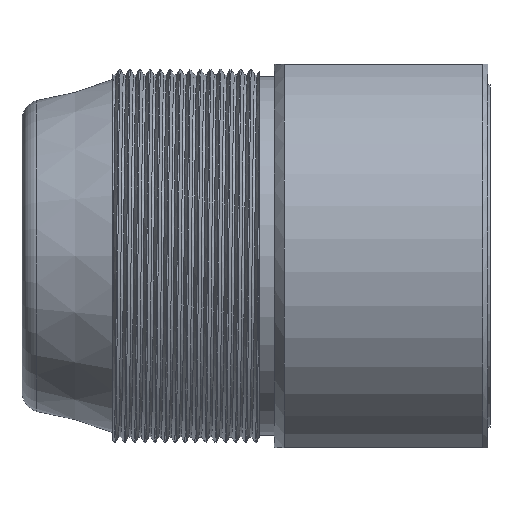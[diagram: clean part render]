
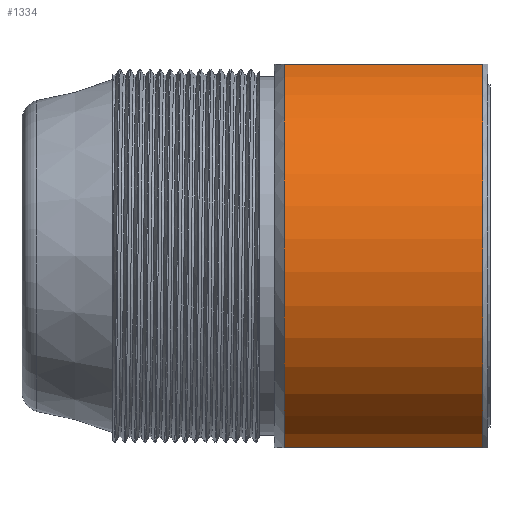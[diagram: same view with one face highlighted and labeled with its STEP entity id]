
A CAD part, top view. The second image highlights one B-rep face of the part: STEP entity #1334.
In plain terms, the highlighted cylindrical face has radius 20 mm (diameter 40 mm), a partial arc.
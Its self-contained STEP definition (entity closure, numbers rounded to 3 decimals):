
#5 = DIRECTION ( 'NONE',  ( 0., 0., 1. ) ) ;
#94 = EDGE_CURVE ( 'NONE', #1224, #3104, #562, .T. ) ;
#106 = CYLINDRICAL_SURFACE ( 'NONE', #3619, 20. ) ;
#562 = CIRCLE ( 'NONE', #653, 20. ) ;
#653 = AXIS2_PLACEMENT_3D ( 'NONE', #938, #2145, #5 ) ;
#864 = DIRECTION ( 'NONE',  ( 0., 0., -1. ) ) ;
#938 = CARTESIAN_POINT ( 'NONE',  ( -20.4, 0., 0. ) ) ;
#1051 = DIRECTION ( 'NONE',  ( 0., 0., -1. ) ) ;
#1224 = VERTEX_POINT ( 'NONE', #1747 ) ;
#1334 = ADVANCED_FACE ( 'NONE', ( #5214 ), #106, .T. ) ;
#1379 = CARTESIAN_POINT ( 'NONE',  ( -0.7, -19., 6.245 ) ) ;
#1474 = CARTESIAN_POINT ( 'NONE',  ( -0.7, 19., 6.245 ) ) ;
#1534 = ORIENTED_EDGE ( 'NONE', *, *, #2776, .F. ) ;
#1665 = VECTOR ( 'NONE', #2133, 1000. ) ;
#1747 = CARTESIAN_POINT ( 'NONE',  ( -20.4, 19., 6.245 ) ) ;
#2133 = DIRECTION ( 'NONE',  ( -1., 0., 0. ) ) ;
#2145 = DIRECTION ( 'NONE',  ( 1., 0., 0. ) ) ;
#2180 = ORIENTED_EDGE ( 'NONE', *, *, #4108, .F. ) ;
#2190 = DIRECTION ( 'NONE',  ( 1., 0., 0. ) ) ;
#2265 = VERTEX_POINT ( 'NONE', #1474 ) ;
#2539 = ORIENTED_EDGE ( 'NONE', *, *, #3665, .T. ) ;
#2637 = VECTOR ( 'NONE', #3064, 1000. ) ;
#2776 = EDGE_CURVE ( 'NONE', #1224, #2265, #4769, .T. ) ;
#2993 = AXIS2_PLACEMENT_3D ( 'NONE', #4494, #4890, #1051 ) ;
#3064 = DIRECTION ( 'NONE',  ( 1., 0., 0. ) ) ;
#3104 = VERTEX_POINT ( 'NONE', #5449 ) ;
#3619 = AXIS2_PLACEMENT_3D ( 'NONE', #4703, #2190, #864 ) ;
#3665 = EDGE_CURVE ( 'NONE', #4982, #2265, #4154, .T. ) ;
#3796 = CARTESIAN_POINT ( 'NONE',  ( 0., 19., 6.245 ) ) ;
#3946 = CARTESIAN_POINT ( 'NONE',  ( 0., -19., 6.245 ) ) ;
#4108 = EDGE_CURVE ( 'NONE', #4982, #3104, #4815, .T. ) ;
#4154 = CIRCLE ( 'NONE', #2993, 20. ) ;
#4494 = CARTESIAN_POINT ( 'NONE',  ( -0.7, 0., 0. ) ) ;
#4498 = EDGE_LOOP ( 'NONE', ( #2180, #2539, #1534, #5088 ) ) ;
#4703 = CARTESIAN_POINT ( 'NONE',  ( 0., 0., 0. ) ) ;
#4769 = LINE ( 'NONE', #3796, #2637 ) ;
#4815 = LINE ( 'NONE', #3946, #1665 ) ;
#4890 = DIRECTION ( 'NONE',  ( -1., 0., 0. ) ) ;
#4982 = VERTEX_POINT ( 'NONE', #1379 ) ;
#5088 = ORIENTED_EDGE ( 'NONE', *, *, #94, .T. ) ;
#5214 = FACE_OUTER_BOUND ( 'NONE', #4498, .T. ) ;
#5449 = CARTESIAN_POINT ( 'NONE',  ( -20.4, -19., 6.245 ) ) ;
